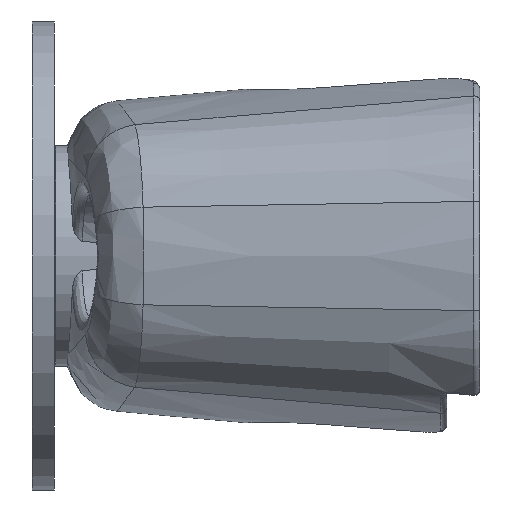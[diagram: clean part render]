
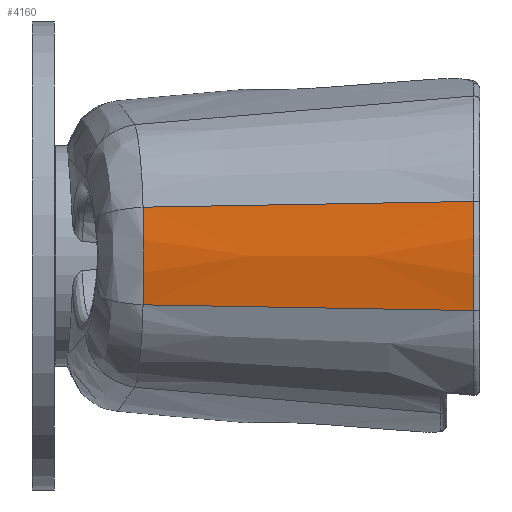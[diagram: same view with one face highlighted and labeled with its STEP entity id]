
A CAD part, left-side view. The second image highlights one B-rep face of the part: STEP entity #4160.
In plain terms, the highlighted conical face has half-angle 5 degrees and reference radius 50 mm.
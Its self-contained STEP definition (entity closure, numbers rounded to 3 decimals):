
#71 = DIRECTION ( 'NONE',  ( -0.085, -0.996, 0.017 ) ) ;
#156 = CARTESIAN_POINT ( 'NONE',  ( -51.367, 35.02, -5.932 ) ) ;
#212 = AXIS2_PLACEMENT_3D ( 'NONE', #8609, #4267, #503 ) ;
#229 = VERTEX_POINT ( 'NONE', #3153 ) ;
#369 = LINE ( 'NONE', #2019, #5196 ) ;
#503 = DIRECTION ( 'NONE',  ( 0., 0., -1. ) ) ;
#553 = CIRCLE ( 'NONE', #2828, 49.905 ) ;
#681 = EDGE_CURVE ( 'NONE', #229, #3802, #3016, .T. ) ;
#724 = FACE_OUTER_BOUND ( 'NONE', #6161, .T. ) ;
#1227 = CARTESIAN_POINT ( 'NONE',  ( -50.762, 35.131, -8.869 ) ) ;
#1511 = DIRECTION ( 'NONE',  ( 0., 0., 1. ) ) ;
#1646 = CARTESIAN_POINT ( 'NONE',  ( -51.667, 34.964, 1.458 ) ) ;
#1708 = CARTESIAN_POINT ( 'NONE',  ( -51.273, 35.037, 5.916 ) ) ;
#2019 = CARTESIAN_POINT ( 'NONE',  ( -56.004, -26., -9.931 ) ) ;
#2484 = CARTESIAN_POINT ( 'NONE',  ( -50.762, 35.131, -8.869 ) ) ;
#2828 = AXIS2_PLACEMENT_3D ( 'NONE', #2982, #8000, #1511 ) ;
#2982 = CARTESIAN_POINT ( 'NONE',  ( -7., -24.913, 0. ) ) ;
#3016 = LINE ( 'NONE', #8831, #4696 ) ;
#3153 = CARTESIAN_POINT ( 'NONE',  ( -50.762, 35.131, 8.869 ) ) ;
#3170 = EDGE_CURVE ( 'NONE', #5797, #229, #6616, .T. ) ;
#3211 = CARTESIAN_POINT ( 'NONE',  ( -51.665, 34.964, -2.984 ) ) ;
#3296 = VERTEX_POINT ( 'NONE', #4860 ) ;
#3304 = EDGE_CURVE ( 'NONE', #5797, #3296, #369, .T. ) ;
#3802 = VERTEX_POINT ( 'NONE', #7584 ) ;
#3931 = CARTESIAN_POINT ( 'NONE',  ( -51.046, 35.079, 7.397 ) ) ;
#4160 = ADVANCED_FACE ( 'NONE', ( #724 ), #5628, .T. ) ;
#4249 = ORIENTED_EDGE ( 'NONE', *, *, #3304, .T. ) ;
#4267 = DIRECTION ( 'NONE',  ( 0., -1., 0. ) ) ;
#4696 = VECTOR ( 'NONE', #71, 1000. ) ;
#4860 = CARTESIAN_POINT ( 'NONE',  ( -55.911, -24.913, -9.912 ) ) ;
#5196 = VECTOR ( 'NONE', #5651, 1000. ) ;
#5256 = CARTESIAN_POINT ( 'NONE',  ( -50.913, 35.103, 8.134 ) ) ;
#5628 = CONICAL_SURFACE ( 'NONE', #212, 50., 0.087 ) ;
#5651 = DIRECTION ( 'NONE',  ( -0.085, -0.996, -0.017 ) ) ;
#5667 = ORIENTED_EDGE ( 'NONE', *, *, #681, .F. ) ;
#5797 = VERTEX_POINT ( 'NONE', #1227 ) ;
#6161 = EDGE_LOOP ( 'NONE', ( #5667, #8396, #4249, #6271 ) ) ;
#6271 = ORIENTED_EDGE ( 'NONE', *, *, #7899, .F. ) ;
#6616 = B_SPLINE_CURVE_WITH_KNOTS ( 'NONE', 3,
 ( #2484, #156, #3211, #1646, #7481, #8260, #1708, #3931, #5256, #6824 ),
 .UNSPECIFIED., .F., .F.,
 ( 4, 2, 2, 2, 4 ),
 ( 0., 0.009, 0.013, 0.016, 0.018 ),
 .UNSPECIFIED. ) ;
#6824 = CARTESIAN_POINT ( 'NONE',  ( -50.762, 35.131, 8.869 ) ) ;
#7481 = CARTESIAN_POINT ( 'NONE',  ( -51.593, 34.978, 2.941 ) ) ;
#7584 = CARTESIAN_POINT ( 'NONE',  ( -55.911, -24.913, 9.912 ) ) ;
#7899 = EDGE_CURVE ( 'NONE', #3802, #3296, #553, .T. ) ;
#8000 = DIRECTION ( 'NONE',  ( 0., -1., 0. ) ) ;
#8260 = CARTESIAN_POINT ( 'NONE',  ( -51.367, 35.02, 5.171 ) ) ;
#8396 = ORIENTED_EDGE ( 'NONE', *, *, #3170, .F. ) ;
#8609 = CARTESIAN_POINT ( 'NONE',  ( -7., -26., 0. ) ) ;
#8831 = CARTESIAN_POINT ( 'NONE',  ( -56.004, -26., 9.931 ) ) ;
